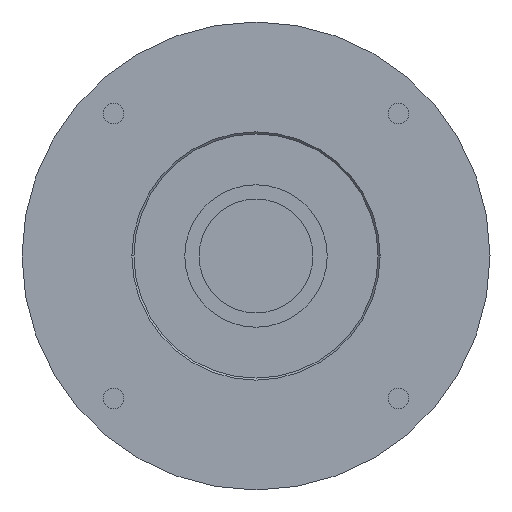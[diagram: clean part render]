
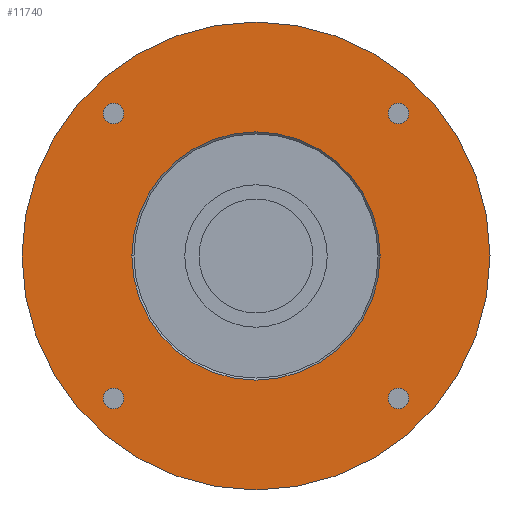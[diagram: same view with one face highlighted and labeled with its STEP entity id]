
A CAD part, left-side view. The second image highlights one B-rep face of the part: STEP entity #11740.
In plain terms, the highlighted planar face has unit normal (-1, 0, 0) as drawn and (0, 0, -1) by its records, which use the part's own axes.
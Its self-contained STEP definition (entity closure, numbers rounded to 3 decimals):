
#9080=CARTESIAN_POINT('',(35.002,32.502,-66.4));
#9090=VERTEX_POINT('',#9080);
#9140=CARTESIAN_POINT('',(35.002,35.002,-66.4));
#9150=DIRECTION('',(0.,0.,-1.));
#9160=DIRECTION('',(1.,0.,0.));
#9170=AXIS2_PLACEMENT_3D('',#9140,#9150,#9160);
#9180=CIRCLE('',#9170,2.5);
#9190=CARTESIAN_POINT('',(37.502,35.002,-66.4));
#9200=VERTEX_POINT('',#9190);
#9210=EDGE_CURVE('',#9200,#9090,#9180,.T.);
#9230=CARTESIAN_POINT('',(35.002,37.502,-66.4));
#9240=VERTEX_POINT('',#9230);
#9250=EDGE_CURVE('',#9240,#9200,#9180,.T.);
#10590=CARTESIAN_POINT('',(0.,-57.5,-66.4));
#10600=VERTEX_POINT('',#10590);
#10630=CARTESIAN_POINT('',(0.,0.,
-66.4));
#10640=DIRECTION('',(0.,0.,-1.));
#10650=DIRECTION('',(0.,-1.,0.));
#10660=AXIS2_PLACEMENT_3D('',#10630,#10640,#10650);
#10670=CIRCLE('',#10660,57.5);
#10680=CARTESIAN_POINT('',(0.,57.5,-66.4));
#10690=VERTEX_POINT('',#10680);
#10700=EDGE_CURVE('',#10600,#10690,#10670,.T.);
#10820=CARTESIAN_POINT('',(0.,0.,
-66.4));
#10830=DIRECTION('',(0.,0.,-1.));
#10840=DIRECTION('',(0.,1.,0.));
#10850=AXIS2_PLACEMENT_3D('',#10820,#10830,#10840);
#10860=PLANE('',#10850);
#10870=CARTESIAN_POINT('',(0.,0.,
-66.4));
#10880=DIRECTION('',(0.,0.,-1.));
#10890=DIRECTION('',(0.,1.,0.));
#10900=AXIS2_PLACEMENT_3D('',#10870,#10880,#10890);
#10910=CIRCLE('',#10900,30.5);
#10920=CARTESIAN_POINT('',(0.,30.5,-66.4));
#10930=VERTEX_POINT('',#10920);
#10940=CARTESIAN_POINT('',(30.5,0.,-66.4));
#10950=VERTEX_POINT('',#10940);
#10960=EDGE_CURVE('',#10930,#10950,#10910,.T.);
#10970=ORIENTED_EDGE('',*,*,#10960,.F.);
#10980=CARTESIAN_POINT('',(-30.5,0.,-66.4));
#10990=VERTEX_POINT('',#10980);
#11000=EDGE_CURVE('',#10950,#10990,#10910,.T.);
#11010=ORIENTED_EDGE('',*,*,#11000,.F.);
#11020=EDGE_CURVE('',#10990,#10930,#10910,.T.);
#11030=ORIENTED_EDGE('',*,*,#11020,.F.);
#11040=EDGE_LOOP('',(#11030,#11010,#10970));
#11050=FACE_BOUND('',#11040,.T.);
#11060=CARTESIAN_POINT('',(-35.002,-35.002,-66.4));
#11070=DIRECTION('',(0.,0.,-1.));
#11080=DIRECTION('',(1.,0.,0.));
#11090=AXIS2_PLACEMENT_3D('',#11060,#11070,#11080);
#11100=CIRCLE('',#11090,2.5);
#11110=CARTESIAN_POINT('',(-32.502,-35.002,-66.4));
#11120=VERTEX_POINT('',#11110);
#11130=CARTESIAN_POINT('',(-35.002,-37.502,-66.4));
#11140=VERTEX_POINT('',#11130);
#11150=EDGE_CURVE('',#11120,#11140,#11100,.T.);
#11160=ORIENTED_EDGE('',*,*,#11150,.F.);
#11170=CARTESIAN_POINT('',(-35.002,-32.502,-66.4));
#11180=VERTEX_POINT('',#11170);
#11190=EDGE_CURVE('',#11140,#11180,#11100,.T.);
#11200=ORIENTED_EDGE('',*,*,#11190,.F.);
#11210=EDGE_CURVE('',#11180,#11120,#11100,.T.);
#11220=ORIENTED_EDGE('',*,*,#11210,.F.);
#11230=EDGE_LOOP('',(#11220,#11200,#11160));
#11240=FACE_BOUND('',#11230,.T.);
#11250=CARTESIAN_POINT('',(-35.002,35.002,-66.4));
#11260=DIRECTION('',(0.,0.,-1.));
#11270=DIRECTION('',(1.,0.,0.));
#11280=AXIS2_PLACEMENT_3D('',#11250,#11260,#11270);
#11290=CIRCLE('',#11280,2.5);
#11300=CARTESIAN_POINT('',(-32.502,35.002,-66.4));
#11310=VERTEX_POINT('',#11300);
#11320=CARTESIAN_POINT('',(-35.002,32.502,-66.4));
#11330=VERTEX_POINT('',#11320);
#11340=EDGE_CURVE('',#11310,#11330,#11290,.T.);
#11350=ORIENTED_EDGE('',*,*,#11340,.F.);
#11360=CARTESIAN_POINT('',(-35.002,37.502,-66.4));
#11370=VERTEX_POINT('',#11360);
#11380=EDGE_CURVE('',#11330,#11370,#11290,.T.);
#11390=ORIENTED_EDGE('',*,*,#11380,.F.);
#11400=EDGE_CURVE('',#11370,#11310,#11290,.T.);
#11410=ORIENTED_EDGE('',*,*,#11400,.F.);
#11420=EDGE_LOOP('',(#11410,#11390,#11350));
#11430=FACE_BOUND('',#11420,.T.);
#11440=ORIENTED_EDGE('',*,*,#9210,.F.);
#11450=EDGE_CURVE('',#9090,#9240,#9180,.T.);
#11460=ORIENTED_EDGE('',*,*,#11450,.F.);
#11470=ORIENTED_EDGE('',*,*,#9250,.F.);
#11480=EDGE_LOOP('',(#11470,#11460,#11440));
#11490=FACE_BOUND('',#11480,.T.);
#11500=CARTESIAN_POINT('',(35.002,-35.002,-66.4));
#11510=DIRECTION('',(0.,0.,-1.));
#11520=DIRECTION('',(1.,0.,0.));
#11530=AXIS2_PLACEMENT_3D('',#11500,#11510,#11520);
#11540=CIRCLE('',#11530,2.5);
#11550=CARTESIAN_POINT('',(37.502,-35.002,-66.4));
#11560=VERTEX_POINT('',#11550);
#11570=CARTESIAN_POINT('',(35.002,-37.502,-66.4));
#11580=VERTEX_POINT('',#11570);
#11590=EDGE_CURVE('',#11560,#11580,#11540,.T.);
#11600=ORIENTED_EDGE('',*,*,#11590,.F.);
#11610=CARTESIAN_POINT('',(35.002,-32.502,-66.4));
#11620=VERTEX_POINT('',#11610);
#11630=EDGE_CURVE('',#11580,#11620,#11540,.T.);
#11640=ORIENTED_EDGE('',*,*,#11630,.F.);
#11650=EDGE_CURVE('',#11620,#11560,#11540,.T.);
#11660=ORIENTED_EDGE('',*,*,#11650,.F.);
#11670=EDGE_LOOP('',(#11660,#11640,#11600));
#11680=FACE_BOUND('',#11670,.T.);
#11690=ORIENTED_EDGE('',*,*,#10700,.T.);
#11700=EDGE_CURVE('',#10690,#10600,#10670,.T.);
#11710=ORIENTED_EDGE('',*,*,#11700,.T.);
#11720=EDGE_LOOP('',(#11710,#11690));
#11730=FACE_OUTER_BOUND('',#11720,.T.);
#11740=ADVANCED_FACE('',(#11050,#11240,#11430,#11490,#11680,#11730),
#10860,.T.);
